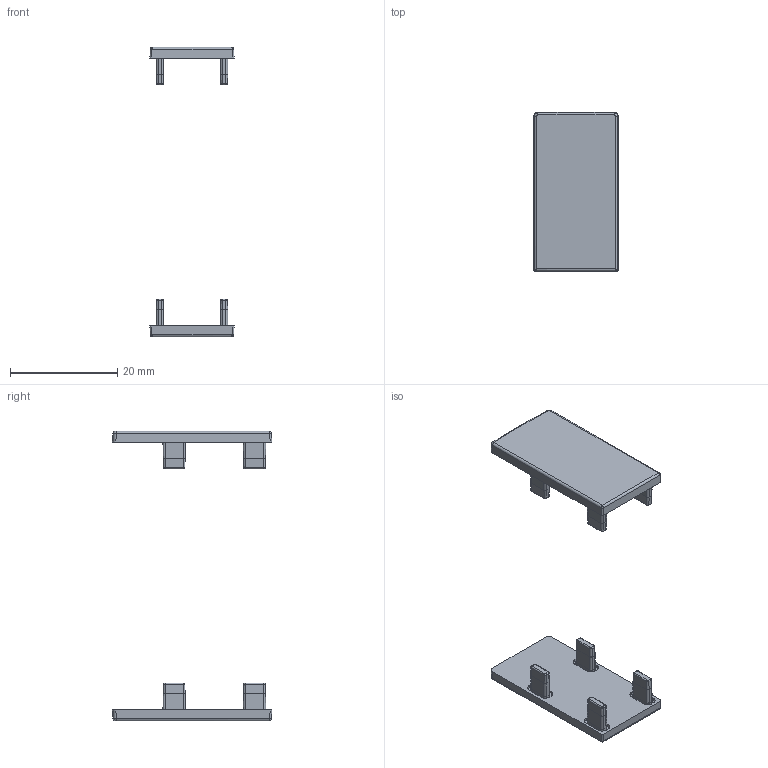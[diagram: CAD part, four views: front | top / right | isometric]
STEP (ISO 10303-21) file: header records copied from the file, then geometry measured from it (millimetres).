
FILE_DESCRIPTION(/* description */ (''),/* implementation_level */ '2;1');
FILE_NAME(/* name */ 'ENDKAPPE_1432899_stp.stp',/* time_stamp */ '2019-06-11T13:31:09+02:00',/* author */ (''),/* organization */ (''),/* preprocessor_version */ 'ST-DEVELOPER v16.7',/* originating_system */ 'SIEMENS PLM Software NX 12.0',/* authorisation */ '');
FILE_SCHEMA (('AUTOMOTIVE_DESIGN { 1 0 10303 214 3 1 1 1 }'));
Length unit declared in the file: millimetre
Products named in the file (1): p.sc21B4B528x4pp
Bounding box: 15.7 x 29.75 x 54 mm (x, y, z)
Volume: 2029.7 mm3; surface area: 2672.6 mm2
Topology: 2 solids, 2 shells, 372 faces, 848 edges, 492 vertices
Faces by surface type: plane 154, cone 130, bspline 44, cylinder 42, torus 2
Entity records: 10837 total; most frequent: CARTESIAN_POINT 2525, DIRECTION 1784, ORIENTED_EDGE 1688, EDGE_CURVE 844, AXIS2_PLACEMENT_3D 639, LINE 506, VECTOR 506, VERTEX_POINT 492
